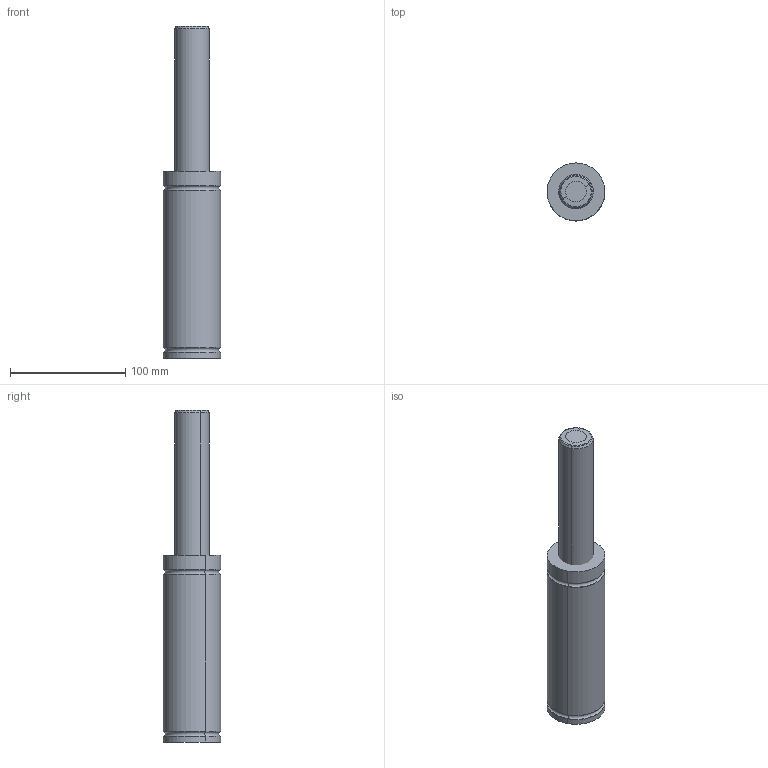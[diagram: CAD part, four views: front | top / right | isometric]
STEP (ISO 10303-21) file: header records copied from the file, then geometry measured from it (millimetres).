
FILE_DESCRIPTION(('CATIA V5 STEP Exchange'),'2;1');
FILE_NAME('W:\CATALOGO GENERAL 2018\FICHEROS CAD\001-MICRO\MICRO 50V\MICRO50Vx125.stp','2017-10-26T11:03:52+00:00',('none'),('none'),'CATIA Version 5 Release 17 (IN-10)','CATIA V5 STEP AP203','none');
FILE_SCHEMA(('CONFIG_CONTROL_DESIGN'));
Length unit declared in the file: millimetre
Products named in the file (1): MICRO50Vx125
Assembly tree (2 placements, depth 2):
  MICRO50Vx125
    #56
    #808
Bounding box: 50.19 x 50.19 x 288 mm (x, y, z)
Volume: 390465.5 mm3; surface area: 56362.2 mm2
Topology: 2 solids, 2 shells, 68 faces, 132 edges, 74 vertices
Faces by surface type: torus 22, cylinder 20, cone 16, plane 10
Entity records: 1595 total; most frequent: ORIENTED_EDGE 264, CARTESIAN_POINT 252, DIRECTION 224, AXIS2_PLACEMENT_3D 142, EDGE_CURVE 132, CIRCLE 96, EDGE_LOOP 74, VERTEX_POINT 74
